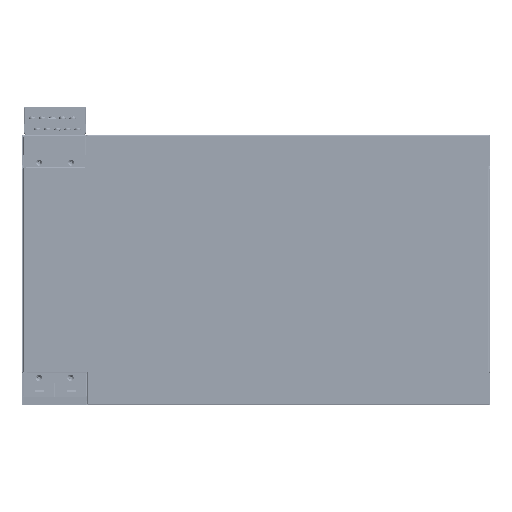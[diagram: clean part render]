
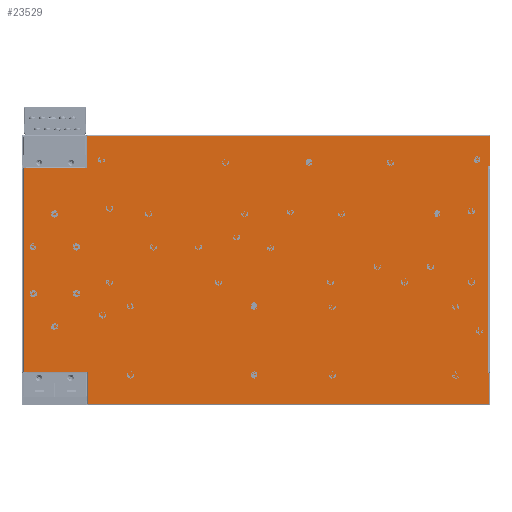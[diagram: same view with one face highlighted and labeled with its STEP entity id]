
A CAD part, front view. The second image highlights one B-rep face of the part: STEP entity #23529.
In plain terms, the highlighted planar face has unit normal (0, -1, 0).
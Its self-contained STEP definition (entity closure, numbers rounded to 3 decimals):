
#160=DIRECTION('',(1.,0.,0.));
#161=VECTOR('',#160,2.);
#162=CARTESIAN_POINT('',(-218.,0.,95.));
#163=LINE('',#162,#161);
#1147=DIRECTION('',(0.,0.,1.));
#1148=VECTOR('',#1147,30.);
#1149=CARTESIAN_POINT('',(-157.9,0.,-127.));
#1150=LINE('',#1149,#1148);
#1151=DIRECTION('',(1.,0.,0.));
#1152=VECTOR('',#1151,2.5);
#1153=CARTESIAN_POINT('',(-160.4,0.,-97.));
#1154=LINE('',#1153,#1152);
#1155=DIRECTION('',(1.,0.,0.));
#1156=VECTOR('',#1155,2.5);
#1157=CARTESIAN_POINT('',(-218.,0.,-97.));
#1158=LINE('',#1157,#1156);
#1163=DIRECTION('',(1.,0.,0.));
#1164=VECTOR('',#1163,55.1);
#1165=CARTESIAN_POINT('',(-216.,0.,95.));
#1166=LINE('',#1165,#1164);
#1188=DIRECTION('',(1.,0.,0.));
#1189=VECTOR('',#1188,2.);
#1190=CARTESIAN_POINT('',(-160.9,0.,95.));
#1191=LINE('',#1190,#1189);
#7428=DIRECTION('',(-1.,0.,0.));
#7429=VECTOR('',#7428,376.9);
#7430=CARTESIAN_POINT('',(219.,0.,-127.));
#7431=LINE('',#7430,#7429);
#7458=DIRECTION('',(0.,0.,-1.));
#7459=VECTOR('',#7458,29.);
#7460=CARTESIAN_POINT('',(219.,0.,-98.));
#7461=LINE('',#7460,#7459);
#7466=DIRECTION('',(1.,0.,0.));
#7467=VECTOR('',#7466,1.);
#7468=CARTESIAN_POINT('',(218.,0.,-98.));
#7469=LINE('',#7468,#7467);
#7960=DIRECTION('',(-1.,0.,0.));
#7961=VECTOR('',#7960,2.1);
#7962=CARTESIAN_POINT('',(220.1,0.,97.));
#7963=LINE('',#7962,#7961);
#7968=DIRECTION('',(0.,0.,-1.));
#7969=VECTOR('',#7968,28.);
#7970=CARTESIAN_POINT('',(220.1,0.,125.));
#7971=LINE('',#7970,#7969);
#7976=DIRECTION('',(1.,0.,0.));
#7977=VECTOR('',#7976,1.);
#7978=CARTESIAN_POINT('',(219.1,0.,125.));
#7979=LINE('',#7978,#7977);
#8527=DIRECTION('',(1.,0.,0.));
#8528=VECTOR('',#8527,1.);
#8529=CARTESIAN_POINT('',(-158.9,0.,125.));
#8530=LINE('',#8529,#8528);
#8539=DIRECTION('',(0.,0.,1.));
#8540=VECTOR('',#8539,30.);
#8541=CARTESIAN_POINT('',(-158.9,0.,95.));
#8542=LINE('',#8541,#8540);
#8547=DIRECTION('',(1.,0.,0.));
#8548=VECTOR('',#8547,377.);
#8549=CARTESIAN_POINT('',(-157.9,0.,125.));
#8550=LINE('',#8549,#8548);
#13320=DIRECTION('',(0.,0.,-1.));
#13321=VECTOR('',#13320,195.);
#13322=CARTESIAN_POINT('',(218.,0.,97.));
#13323=LINE('',#13322,#13321);
#16493=DIRECTION('',(-1.,0.,0.));
#16494=VECTOR('',#16493,55.1);
#16495=CARTESIAN_POINT('',(-160.4,0.,-97.));
#16496=LINE('',#16495,#16494);
#16501=DIRECTION('',(0.,0.,1.));
#16502=VECTOR('',#16501,192.);
#16503=CARTESIAN_POINT('',(-218.,0.,-97.));
#16504=LINE('',#16503,#16502);
#17262=CARTESIAN_POINT('',(-216.,0.,95.));
#17263=VERTEX_POINT('',#17262);
#17264=CARTESIAN_POINT('',(-160.9,0.,95.));
#17265=VERTEX_POINT('',#17264);
#17296=CARTESIAN_POINT('',(-218.,0.,95.));
#17297=VERTEX_POINT('',#17296);
#17324=CARTESIAN_POINT('',(-158.9,0.,95.));
#17325=VERTEX_POINT('',#17324);
#17354=CARTESIAN_POINT('',(-215.5,0.,-97.));
#17355=VERTEX_POINT('',#17354);
#17356=CARTESIAN_POINT('',(-218.,0.,-97.));
#17357=VERTEX_POINT('',#17356);
#17364=CARTESIAN_POINT('',(-158.9,0.,125.));
#17365=VERTEX_POINT('',#17364);
#17410=CARTESIAN_POINT('',(-157.9,0.,125.));
#17411=VERTEX_POINT('',#17410);
#17434=CARTESIAN_POINT('',(-157.9,0.,-97.));
#17435=VERTEX_POINT('',#17434);
#17436=CARTESIAN_POINT('',(-160.4,0.,-97.));
#17437=VERTEX_POINT('',#17436);
#17446=CARTESIAN_POINT('',(219.1,0.,125.));
#17447=VERTEX_POINT('',#17446);
#17482=CARTESIAN_POINT('',(-157.9,0.,-127.));
#17483=VERTEX_POINT('',#17482);
#17496=CARTESIAN_POINT('',(220.1,0.,125.));
#17497=VERTEX_POINT('',#17496);
#17540=CARTESIAN_POINT('',(220.1,0.,97.));
#17541=VERTEX_POINT('',#17540);
#17578=CARTESIAN_POINT('',(219.,0.,-98.));
#17579=VERTEX_POINT('',#17578);
#17580=CARTESIAN_POINT('',(219.,0.,-127.));
#17581=VERTEX_POINT('',#17580);
#17592=CARTESIAN_POINT('',(218.,0.,97.));
#17593=VERTEX_POINT('',#17592);
#17642=CARTESIAN_POINT('',(218.,0.,-98.));
#17643=VERTEX_POINT('',#17642);
#23490=CARTESIAN_POINT('',(0.,0.,0.));
#23491=DIRECTION('',(0.,1.,0.));
#23492=DIRECTION('',(1.,0.,0.));
#23493=AXIS2_PLACEMENT_3D('',#23490,#23491,#23492);
#23494=PLANE('',#23493);
#23495=ORIENTED_EDGE('',*,*,#22462,.T.);
#23497=ORIENTED_EDGE('',*,*,#23496,.T.);
#23499=ORIENTED_EDGE('',*,*,#23498,.T.);
#23501=ORIENTED_EDGE('',*,*,#23500,.T.);
#23503=ORIENTED_EDGE('',*,*,#23502,.T.);
#23505=ORIENTED_EDGE('',*,*,#23504,.T.);
#23507=ORIENTED_EDGE('',*,*,#23506,.T.);
#23509=ORIENTED_EDGE('',*,*,#23508,.T.);
#23511=ORIENTED_EDGE('',*,*,#23510,.T.);
#23513=ORIENTED_EDGE('',*,*,#23512,.T.);
#23515=ORIENTED_EDGE('',*,*,#23514,.T.);
#23517=ORIENTED_EDGE('',*,*,#23516,.T.);
#23519=ORIENTED_EDGE('',*,*,#23518,.T.);
#23520=ORIENTED_EDGE('',*,*,#23481,.T.);
#23521=ORIENTED_EDGE('',*,*,#23470,.F.);
#23523=ORIENTED_EDGE('',*,*,#23522,.T.);
#23524=ORIENTED_EDGE('',*,*,#23326,.F.);
#23526=ORIENTED_EDGE('',*,*,#23525,.T.);
#23527=EDGE_LOOP('',(#23495,#23497,#23499,#23501,#23503,#23505,#23507,#23509,
#23511,#23513,#23515,#23517,#23519,#23520,#23521,#23523,#23524,#23526));
#23528=FACE_OUTER_BOUND('',#23527,.F.);
#23529=ADVANCED_FACE('',(#23528),#23494,.F.);
#22462=EDGE_CURVE('',#17297,#17263,#163,.T.);
#23326=EDGE_CURVE('',#17357,#17355,#1158,.T.);
#23470=EDGE_CURVE('',#17437,#17435,#1154,.T.);
#23481=EDGE_CURVE('',#17483,#17435,#1150,.T.);
#23496=EDGE_CURVE('',#17263,#17265,#1166,.T.);
#23498=EDGE_CURVE('',#17265,#17325,#1191,.T.);
#23500=EDGE_CURVE('',#17325,#17365,#8542,.T.);
#23502=EDGE_CURVE('',#17365,#17411,#8530,.T.);
#23504=EDGE_CURVE('',#17411,#17447,#8550,.T.);
#23506=EDGE_CURVE('',#17447,#17497,#7979,.T.);
#23508=EDGE_CURVE('',#17497,#17541,#7971,.T.);
#23510=EDGE_CURVE('',#17541,#17593,#7963,.T.);
#23512=EDGE_CURVE('',#17593,#17643,#13323,.T.);
#23514=EDGE_CURVE('',#17643,#17579,#7469,.T.);
#23516=EDGE_CURVE('',#17579,#17581,#7461,.T.);
#23518=EDGE_CURVE('',#17581,#17483,#7431,.T.);
#23522=EDGE_CURVE('',#17437,#17355,#16496,.T.);
#23525=EDGE_CURVE('',#17357,#17297,#16504,.T.);
